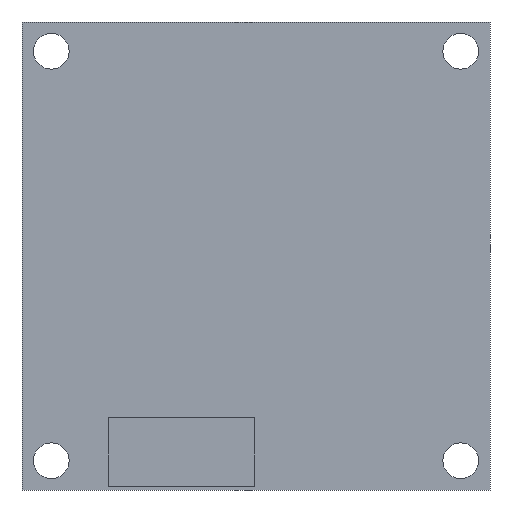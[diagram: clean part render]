
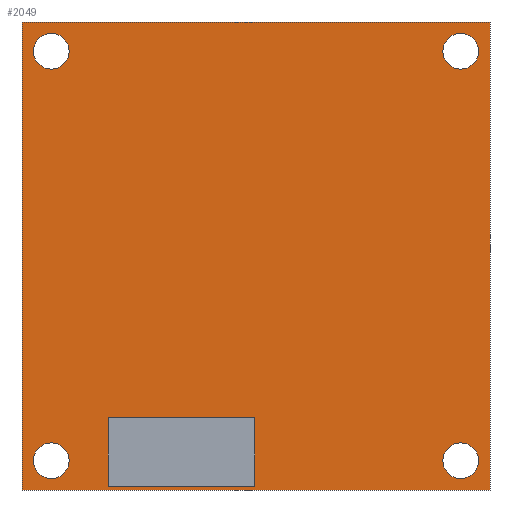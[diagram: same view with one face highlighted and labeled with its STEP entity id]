
A CAD part, front view. The second image highlights one B-rep face of the part: STEP entity #2049.
In plain terms, the highlighted planar face has unit normal (0, -1, 0).
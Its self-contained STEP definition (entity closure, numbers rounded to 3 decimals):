
#3 = EDGE_CURVE ( 'NONE', #1220, #630, #1393, .T. ) ;
#4 = DIRECTION ( 'NONE',  ( 0., 0., -1. ) ) ;
#36 = CARTESIAN_POINT ( 'NONE',  ( 0., 0., 0. ) ) ;
#57 = LINE ( 'NONE', #1286, #1988 ) ;
#81 = LINE ( 'NONE', #1075, #761 ) ;
#92 = VERTEX_POINT ( 'NONE', #306 ) ;
#94 = DIRECTION ( 'NONE',  ( 0., 1., 0. ) ) ;
#97 = DIRECTION ( 'NONE',  ( 0., 0., 1. ) ) ;
#106 = LINE ( 'NONE', #1913, #480 ) ;
#107 = EDGE_CURVE ( 'NONE', #1184, #1013, #106, .T. ) ;
#133 = EDGE_CURVE ( 'NONE', #1392, #1133, #1534, .T. ) ;
#135 = ORIENTED_EDGE ( 'NONE', *, *, #1695, .F. ) ;
#152 = DIRECTION ( 'NONE',  ( 0., 1., 0. ) ) ;
#157 = ORIENTED_EDGE ( 'NONE', *, *, #574, .F. ) ;
#191 = CIRCLE ( 'NONE', #1186, 1.22 ) ;
#199 = CARTESIAN_POINT ( 'NONE',  ( 2., 0., -30. ) ) ;
#207 = EDGE_LOOP ( 'NONE', ( #1236, #1489 ) ) ;
#214 = CARTESIAN_POINT ( 'NONE',  ( 5.9, 0., -27.05 ) ) ;
#217 = CARTESIAN_POINT ( 'NONE',  ( 32., 0., 0. ) ) ;
#234 = DIRECTION ( 'NONE',  ( 0., 0., -1. ) ) ;
#253 = VECTOR ( 'NONE', #234, 1000. ) ;
#254 = CARTESIAN_POINT ( 'NONE',  ( 32., 0., 0. ) ) ;
#258 = CARTESIAN_POINT ( 'NONE',  ( 30., 0., -3.22 ) ) ;
#278 = VECTOR ( 'NONE', #397, 1000. ) ;
#288 = VERTEX_POINT ( 'NONE', #1821 ) ;
#297 = FACE_BOUND ( 'NONE', #207, .T. ) ;
#306 = CARTESIAN_POINT ( 'NONE',  ( 2., 0., -0.78 ) ) ;
#314 = AXIS2_PLACEMENT_3D ( 'NONE', #199, #1348, #1646 ) ;
#347 = EDGE_CURVE ( 'NONE', #1488, #878, #870, .T. ) ;
#358 = CARTESIAN_POINT ( 'NONE',  ( 32., 0., -32. ) ) ;
#388 = ORIENTED_EDGE ( 'NONE', *, *, #1344, .T. ) ;
#390 = EDGE_CURVE ( 'NONE', #1089, #288, #427, .T. ) ;
#394 = CARTESIAN_POINT ( 'NONE',  ( 15.9, 0., -27.05 ) ) ;
#396 = FACE_BOUND ( 'NONE', #1553, .T. ) ;
#397 = DIRECTION ( 'NONE',  ( 0., 0., 1. ) ) ;
#412 = ORIENTED_EDGE ( 'NONE', *, *, #725, .F. ) ;
#427 = LINE ( 'NONE', #1401, #278 ) ;
#440 = CARTESIAN_POINT ( 'NONE',  ( 30., 0., -2. ) ) ;
#451 = EDGE_CURVE ( 'NONE', #1910, #1187, #1096, .T. ) ;
#472 = CARTESIAN_POINT ( 'NONE',  ( 2., 0., -30. ) ) ;
#480 = VECTOR ( 'NONE', #4, 1000. ) ;
#505 = CARTESIAN_POINT ( 'NONE',  ( 5.9, 0., -31.75 ) ) ;
#506 = EDGE_CURVE ( 'NONE', #1133, #1392, #1836, .T. ) ;
#525 = CIRCLE ( 'NONE', #1313, 1.22 ) ;
#548 = LINE ( 'NONE', #1867, #1860 ) ;
#567 = CARTESIAN_POINT ( 'NONE',  ( 2., 0., -28.78 ) ) ;
#574 = EDGE_CURVE ( 'NONE', #288, #1488, #548, .T. ) ;
#575 = DIRECTION ( 'NONE',  ( 1., 0., 0. ) ) ;
#584 = CARTESIAN_POINT ( 'NONE',  ( 30., 0., -31.22 ) ) ;
#585 = EDGE_LOOP ( 'NONE', ( #135, #1873, #1996, #1891 ) ) ;
#598 = DIRECTION ( 'NONE',  ( 1., 0., 0. ) ) ;
#604 = ORIENTED_EDGE ( 'NONE', *, *, #347, .F. ) ;
#614 = ORIENTED_EDGE ( 'NONE', *, *, #390, .F. ) ;
#620 = CIRCLE ( 'NONE', #1594, 1.22 ) ;
#630 = VERTEX_POINT ( 'NONE', #258 ) ;
#635 = DIRECTION ( 'NONE',  ( 0., 0., 1. ) ) ;
#655 = DIRECTION ( 'NONE',  ( 0., 0., 1. ) ) ;
#672 = PLANE ( 'NONE',  #1433 ) ;
#725 = EDGE_CURVE ( 'NONE', #878, #1089, #57, .T. ) ;
#746 = VERTEX_POINT ( 'NONE', #2065 ) ;
#761 = VECTOR ( 'NONE', #575, 1000. ) ;
#786 = DIRECTION ( 'NONE',  ( -1., 0., 0. ) ) ;
#833 = FACE_BOUND ( 'NONE', #1519, .T. ) ;
#849 = LINE ( 'NONE', #1687, #1969 ) ;
#853 = DIRECTION ( 'NONE',  ( 0., -1., 0. ) ) ;
#868 = CARTESIAN_POINT ( 'NONE',  ( 2., 0., -31.22 ) ) ;
#870 = LINE ( 'NONE', #217, #253 ) ;
#872 = CARTESIAN_POINT ( 'NONE',  ( 30., 0., -0.78 ) ) ;
#878 = VERTEX_POINT ( 'NONE', #358 ) ;
#900 = ORIENTED_EDGE ( 'NONE', *, *, #1740, .T. ) ;
#912 = CARTESIAN_POINT ( 'NONE',  ( 30., 0., -28.78 ) ) ;
#947 = DIRECTION ( 'NONE',  ( 0., 0., 1. ) ) ;
#982 = VERTEX_POINT ( 'NONE', #567 ) ;
#983 = DIRECTION ( 'NONE',  ( 0., 0., 1. ) ) ;
#984 = ORIENTED_EDGE ( 'NONE', *, *, #1477, .T. ) ;
#1013 = VERTEX_POINT ( 'NONE', #505 ) ;
#1015 = DIRECTION ( 'NONE',  ( 0., 0., -1. ) ) ;
#1045 = EDGE_LOOP ( 'NONE', ( #984, #1111 ) ) ;
#1075 = CARTESIAN_POINT ( 'NONE',  ( 5.9, 0., -31.75 ) ) ;
#1089 = VERTEX_POINT ( 'NONE', #1246 ) ;
#1095 = CARTESIAN_POINT ( 'NONE',  ( 30., 0., -2. ) ) ;
#1096 = LINE ( 'NONE', #1854, #1670 ) ;
#1111 = ORIENTED_EDGE ( 'NONE', *, *, #3, .T. ) ;
#1133 = VERTEX_POINT ( 'NONE', #912 ) ;
#1184 = VERTEX_POINT ( 'NONE', #214 ) ;
#1186 = AXIS2_PLACEMENT_3D ( 'NONE', #1299, #1471, #983 ) ;
#1187 = VERTEX_POINT ( 'NONE', #394 ) ;
#1219 = DIRECTION ( 'NONE',  ( 0., 0., 1. ) ) ;
#1220 = VERTEX_POINT ( 'NONE', #872 ) ;
#1236 = ORIENTED_EDGE ( 'NONE', *, *, #133, .T. ) ;
#1246 = CARTESIAN_POINT ( 'NONE',  ( 0., 0., -32. ) ) ;
#1252 = DIRECTION ( 'NONE',  ( 0., 0., 1. ) ) ;
#1286 = CARTESIAN_POINT ( 'NONE',  ( 0., 0., -32. ) ) ;
#1299 = CARTESIAN_POINT ( 'NONE',  ( 2., 0., -2. ) ) ;
#1311 = CARTESIAN_POINT ( 'NONE',  ( 30., 0., -30. ) ) ;
#1313 = AXIS2_PLACEMENT_3D ( 'NONE', #1724, #94, #2034 ) ;
#1326 = DIRECTION ( 'NONE',  ( 0., 1., 0. ) ) ;
#1333 = CARTESIAN_POINT ( 'NONE',  ( 15.9, 0., -31.75 ) ) ;
#1344 = EDGE_CURVE ( 'NONE', #746, #92, #191, .T. ) ;
#1348 = DIRECTION ( 'NONE',  ( 0., 1., 0. ) ) ;
#1392 = VERTEX_POINT ( 'NONE', #584 ) ;
#1393 = CIRCLE ( 'NONE', #1831, 1.22 ) ;
#1399 = AXIS2_PLACEMENT_3D ( 'NONE', #1742, #1430, #1252 ) ;
#1401 = CARTESIAN_POINT ( 'NONE',  ( 0., 0., 0. ) ) ;
#1428 = FACE_OUTER_BOUND ( 'NONE', #1710, .T. ) ;
#1430 = DIRECTION ( 'NONE',  ( 0., 1., 0. ) ) ;
#1433 = AXIS2_PLACEMENT_3D ( 'NONE', #36, #853, #1015 ) ;
#1471 = DIRECTION ( 'NONE',  ( 0., 1., 0. ) ) ;
#1477 = EDGE_CURVE ( 'NONE', #630, #1220, #1584, .T. ) ;
#1488 = VERTEX_POINT ( 'NONE', #254 ) ;
#1489 = ORIENTED_EDGE ( 'NONE', *, *, #506, .T. ) ;
#1519 = EDGE_LOOP ( 'NONE', ( #1942, #1630 ) ) ;
#1530 = EDGE_CURVE ( 'NONE', #1187, #1184, #849, .T. ) ;
#1534 = CIRCLE ( 'NONE', #2013, 1.22 ) ;
#1553 = EDGE_LOOP ( 'NONE', ( #388, #900 ) ) ;
#1580 = DIRECTION ( 'NONE',  ( 0., 1., 0. ) ) ;
#1584 = CIRCLE ( 'NONE', #1772, 1.22 ) ;
#1594 = AXIS2_PLACEMENT_3D ( 'NONE', #472, #1326, #655 ) ;
#1608 = VERTEX_POINT ( 'NONE', #868 ) ;
#1630 = ORIENTED_EDGE ( 'NONE', *, *, #2009, .T. ) ;
#1646 = DIRECTION ( 'NONE',  ( 0., 0., 1. ) ) ;
#1670 = VECTOR ( 'NONE', #1219, 1000. ) ;
#1687 = CARTESIAN_POINT ( 'NONE',  ( 5.9, 0., -27.05 ) ) ;
#1691 = DIRECTION ( 'NONE',  ( -1., 0., 0. ) ) ;
#1695 = EDGE_CURVE ( 'NONE', #1013, #1910, #81, .T. ) ;
#1710 = EDGE_LOOP ( 'NONE', ( #614, #412, #604, #157 ) ) ;
#1722 = DIRECTION ( 'NONE',  ( 0., 1., 0. ) ) ;
#1724 = CARTESIAN_POINT ( 'NONE',  ( 2., 0., -2. ) ) ;
#1740 = EDGE_CURVE ( 'NONE', #92, #746, #525, .T. ) ;
#1742 = CARTESIAN_POINT ( 'NONE',  ( 30., 0., -30. ) ) ;
#1772 = AXIS2_PLACEMENT_3D ( 'NONE', #1095, #1722, #97 ) ;
#1783 = FACE_BOUND ( 'NONE', #1045, .T. ) ;
#1821 = CARTESIAN_POINT ( 'NONE',  ( 0., 0., 0. ) ) ;
#1831 = AXIS2_PLACEMENT_3D ( 'NONE', #440, #1580, #947 ) ;
#1836 = CIRCLE ( 'NONE', #1399, 1.22 ) ;
#1854 = CARTESIAN_POINT ( 'NONE',  ( 15.9, 0., -27.05 ) ) ;
#1860 = VECTOR ( 'NONE', #598, 1000. ) ;
#1867 = CARTESIAN_POINT ( 'NONE',  ( 0., 0., 0. ) ) ;
#1873 = ORIENTED_EDGE ( 'NONE', *, *, #107, .F. ) ;
#1891 = ORIENTED_EDGE ( 'NONE', *, *, #451, .F. ) ;
#1902 = CIRCLE ( 'NONE', #314, 1.22 ) ;
#1910 = VERTEX_POINT ( 'NONE', #1333 ) ;
#1913 = CARTESIAN_POINT ( 'NONE',  ( 5.9, 0., -27.05 ) ) ;
#1929 = FACE_BOUND ( 'NONE', #585, .T. ) ;
#1942 = ORIENTED_EDGE ( 'NONE', *, *, #1952, .T. ) ;
#1952 = EDGE_CURVE ( 'NONE', #1608, #982, #620, .T. ) ;
#1969 = VECTOR ( 'NONE', #1691, 1000. ) ;
#1988 = VECTOR ( 'NONE', #786, 1000. ) ;
#1996 = ORIENTED_EDGE ( 'NONE', *, *, #1530, .F. ) ;
#2009 = EDGE_CURVE ( 'NONE', #982, #1608, #1902, .T. ) ;
#2013 = AXIS2_PLACEMENT_3D ( 'NONE', #1311, #152, #635 ) ;
#2034 = DIRECTION ( 'NONE',  ( 0., 0., 1. ) ) ;
#2049 = ADVANCED_FACE ( 'NONE', ( #1783, #833, #1428, #396, #297, #1929 ), #672, .T. ) ;
#2065 = CARTESIAN_POINT ( 'NONE',  ( 2., 0., -3.22 ) ) ;
